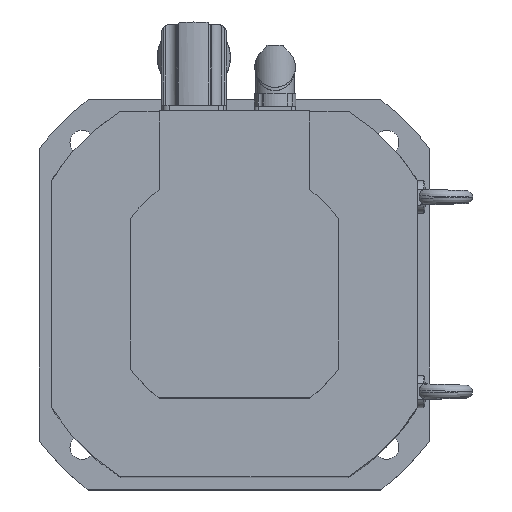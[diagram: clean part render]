
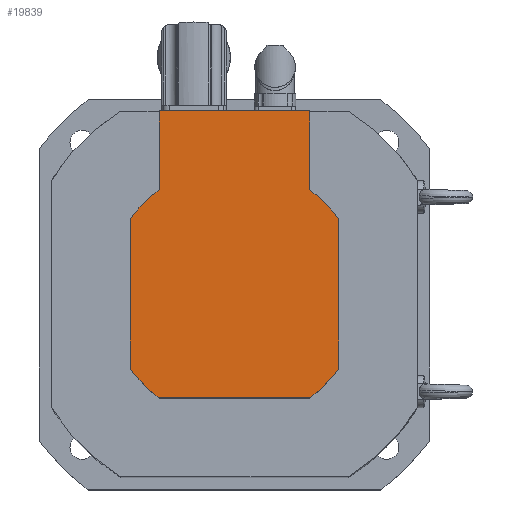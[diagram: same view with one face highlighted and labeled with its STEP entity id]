
A CAD part, top view. The second image highlights one B-rep face of the part: STEP entity #19839.
In plain terms, the highlighted planar face has unit normal (0, 0, 1).
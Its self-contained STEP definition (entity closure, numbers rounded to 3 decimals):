
#19587=CARTESIAN_POINT('',(64.,46.314,54.));
#19588=VERTEX_POINT('',#19587);
#19595=CARTESIAN_POINT('',(64.,-46.314,54.));
#19596=VERTEX_POINT('',#19595);
#19597=CARTESIAN_POINT('',(64.,-46.314,54.));
#19598=DIRECTION('',(0.0,1.0,0.0));
#19599=VECTOR('',#19598,92.628);
#19600=LINE('',#19597,#19599);
#19601=EDGE_CURVE('',#19596,#19588,#19600,.T.);
#19626=CARTESIAN_POINT('',(-64.,-46.314,54.));
#19627=VERTEX_POINT('',#19626);
#19634=CARTESIAN_POINT('',(-64.,46.314,54.));
#19635=VERTEX_POINT('',#19634);
#19636=CARTESIAN_POINT('',(-64.,46.314,54.));
#19637=DIRECTION('',(0.0,-1.0,0.0));
#19638=VECTOR('',#19637,92.628);
#19639=LINE('',#19636,#19638);
#19640=EDGE_CURVE('',#19635,#19627,#19639,.T.);
#19657=CARTESIAN_POINT('',(46.314,-64.,54.));
#19658=VERTEX_POINT('',#19657);
#19665=CARTESIAN_POINT('',(-46.314,-64.,54.));
#19666=VERTEX_POINT('',#19665);
#19667=CARTESIAN_POINT('',(-46.314,-64.,54.));
#19668=DIRECTION('',(1.0,0.0,0.0));
#19669=VECTOR('',#19668,92.628);
#19670=LINE('',#19667,#19669);
#19671=EDGE_CURVE('',#19666,#19658,#19670,.T.);
#19689=CARTESIAN_POINT('',(0.0,0.0,54.0));
#19690=DIRECTION('',(0.0,0.0,-1.0));
#19691=DIRECTION('',(-1.0,0.0,0.0));
#19692=AXIS2_PLACEMENT_3D('',#19689,#19690,#19691);
#19693=CIRCLE('',#19692,79.0);
#19694=EDGE_CURVE('',#19596,#19658,#19693,.T.);
#19708=CARTESIAN_POINT('',(46.314,64.0,54.));
#19709=VERTEX_POINT('',#19708);
#19716=CARTESIAN_POINT('',(0.0,0.0,54.0));
#19717=DIRECTION('',(0.0,0.0,-1.0));
#19718=DIRECTION('',(-1.0,0.0,0.0));
#19719=AXIS2_PLACEMENT_3D('',#19716,#19717,#19718);
#19720=CIRCLE('',#19719,79.0);
#19721=EDGE_CURVE('',#19709,#19588,#19720,.T.);
#19732=CARTESIAN_POINT('',(-46.314,64.0,54.));
#19733=VERTEX_POINT('',#19732);
#19734=CARTESIAN_POINT('',(0.0,0.0,54.0));
#19735=DIRECTION('',(0.0,0.0,-1.0));
#19736=DIRECTION('',(-1.0,0.0,0.0));
#19737=AXIS2_PLACEMENT_3D('',#19734,#19735,#19736);
#19738=CIRCLE('',#19737,79.0);
#19739=EDGE_CURVE('',#19635,#19733,#19738,.T.);
#19759=CARTESIAN_POINT('',(0.0,0.0,54.0));
#19760=DIRECTION('',(0.0,0.0,-1.0));
#19761=DIRECTION('',(-1.0,0.0,0.0));
#19762=AXIS2_PLACEMENT_3D('',#19759,#19760,#19761);
#19763=CIRCLE('',#19762,79.0);
#19764=EDGE_CURVE('',#19666,#19627,#19763,.T.);
#19776=CARTESIAN_POINT('',(-46.314,112.5,54.));
#19777=VERTEX_POINT('',#19776);
#19778=CARTESIAN_POINT('',(-46.314,64.0,54.));
#19779=DIRECTION('',(0.0,1.0,0.0));
#19780=VECTOR('',#19779,48.5);
#19781=LINE('',#19778,#19780);
#19782=EDGE_CURVE('',#19733,#19777,#19781,.T.);
#19798=CARTESIAN_POINT('',(46.314,112.5,54.));
#19799=VERTEX_POINT('',#19798);
#19806=CARTESIAN_POINT('',(46.314,64.0,54.));
#19807=DIRECTION('',(0.0,1.0,0.0));
#19808=VECTOR('',#19807,48.5);
#19809=LINE('',#19806,#19808);
#19810=EDGE_CURVE('',#19709,#19799,#19809,.T.);
#19817=CARTESIAN_POINT('',(64.,-64.,54.0));
#19818=DIRECTION('',(0.0,0.0,-1.0));
#19819=DIRECTION('',(-1.0,0.0,0.0));
#19820=AXIS2_PLACEMENT_3D('',#19817,#19818,#19819);
#19821=PLANE('',#19820);
#19822=ORIENTED_EDGE('',*,*,#19601,.T.);
#19823=ORIENTED_EDGE('',*,*,#19721,.F.);
#19824=ORIENTED_EDGE('',*,*,#19810,.T.);
#19825=CARTESIAN_POINT('',(-46.314,112.5,54.));
#19826=DIRECTION('',(1.0,0.0,0.0));
#19827=VECTOR('',#19826,92.628);
#19828=LINE('',#19825,#19827);
#19829=EDGE_CURVE('',#19777,#19799,#19828,.T.);
#19830=ORIENTED_EDGE('',*,*,#19829,.F.);
#19831=ORIENTED_EDGE('',*,*,#19782,.F.);
#19832=ORIENTED_EDGE('',*,*,#19739,.F.);
#19833=ORIENTED_EDGE('',*,*,#19640,.T.);
#19834=ORIENTED_EDGE('',*,*,#19764,.F.);
#19835=ORIENTED_EDGE('',*,*,#19671,.T.);
#19836=ORIENTED_EDGE('',*,*,#19694,.F.);
#19837=EDGE_LOOP('',(#19822,#19823,#19824,#19830,#19831,#19832,#19833,#19834,#19835,#19836));
#19838=FACE_OUTER_BOUND('',#19837,.T.);
#19839=ADVANCED_FACE('',(#19838),#19821,.F.);
